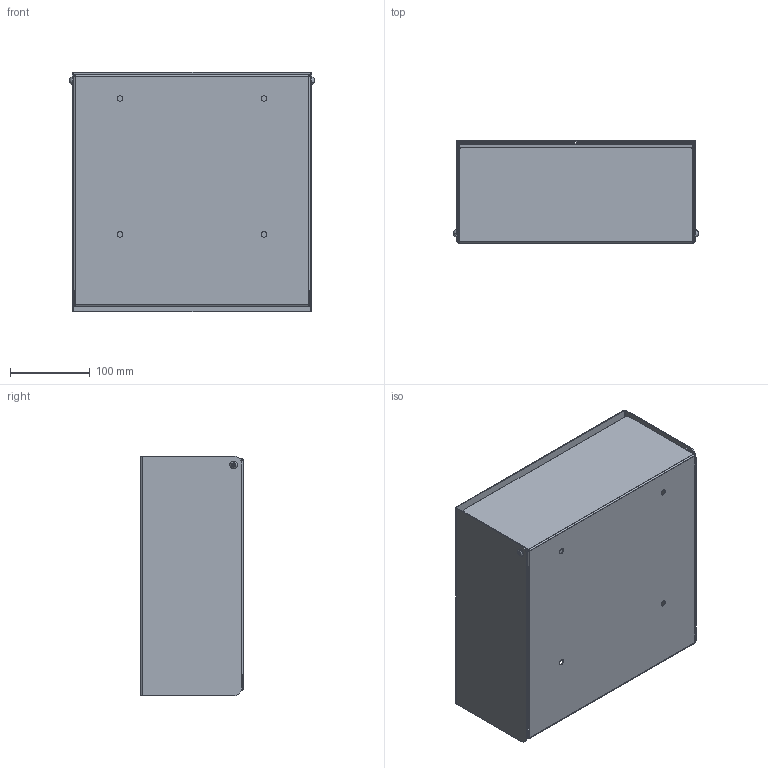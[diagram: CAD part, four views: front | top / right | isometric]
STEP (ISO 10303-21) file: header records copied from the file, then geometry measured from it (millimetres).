
FILE_DESCRIPTION (( 'STEP AP214' ), '1' );
FILE_NAME ('09-002-0300-W-00-00.STEP', '2023-01-16T07:45:12', ( '' ), ( '' ), 'SwSTEP 2.0', 'SolidWorks 2021', '' );
FILE_SCHEMA (( 'AUTOMOTIVE_DESIGN' ));
Length unit declared in the file: millimetre
Products named in the file (5): 09-002-0300-W-00-00; 09-002-0300-W-00-01; screw_iso_7380-m5x10-12_9; nut_iso_10511-m5-05; 09-002-0300-W-00-02
Assembly tree (6 placements, depth 2):
  09-002-0300-W-00-00
    09-002-0300-W-00-01
    09-002-0300-W-00-02
    screw_iso_7380-m5x10-12_9  x2
    nut_iso_10511-m5-05  x2
Bounding box: 305.5 x 128 x 300 mm (x, y, z)
Volume: 330250.1 mm3; surface area: 664279.7 mm2
Topology: 6 solids, 6 shells, 214 faces, 518 edges, 316 vertices
Faces by surface type: plane 100, cylinder 66, cone 30, torus 12, bspline 6
Entity records: 5698 total; most frequent: CARTESIAN_POINT 1514, DIRECTION 839, ORIENTED_EDGE 812, EDGE_CURVE 406, AXIS2_PLACEMENT_3D 310, VERTEX_POINT 246, VECTOR 219, LINE 219
